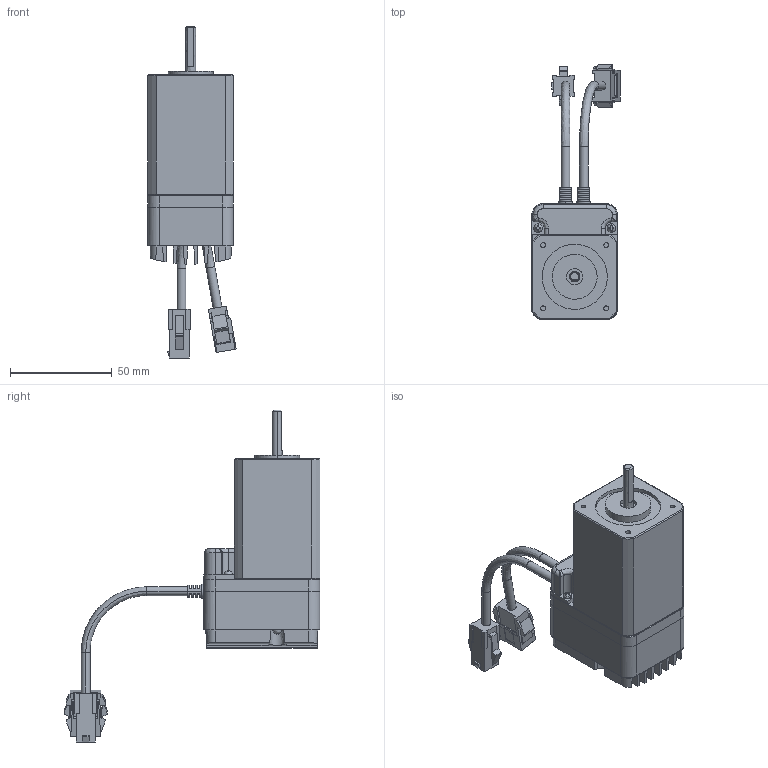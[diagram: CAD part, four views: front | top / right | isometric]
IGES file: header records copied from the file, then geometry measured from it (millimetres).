
Global section: file name: c:\CAD_WORK\BM-42XL-assembly_100628.igs; preprocessor: I-DEAS 3D IGES Translator 12; date: 20110209.123119; units: millimetre
Bounding box: 43.27 x 125.61 x 163 mm (x, y, z)
Volume: 111779.3 mm3; surface area: 50221 mm2
Topology: 8 solids, 8 shells, 795 faces, 3116 edges, 2740 vertices
Faces by surface type: bspline 795
